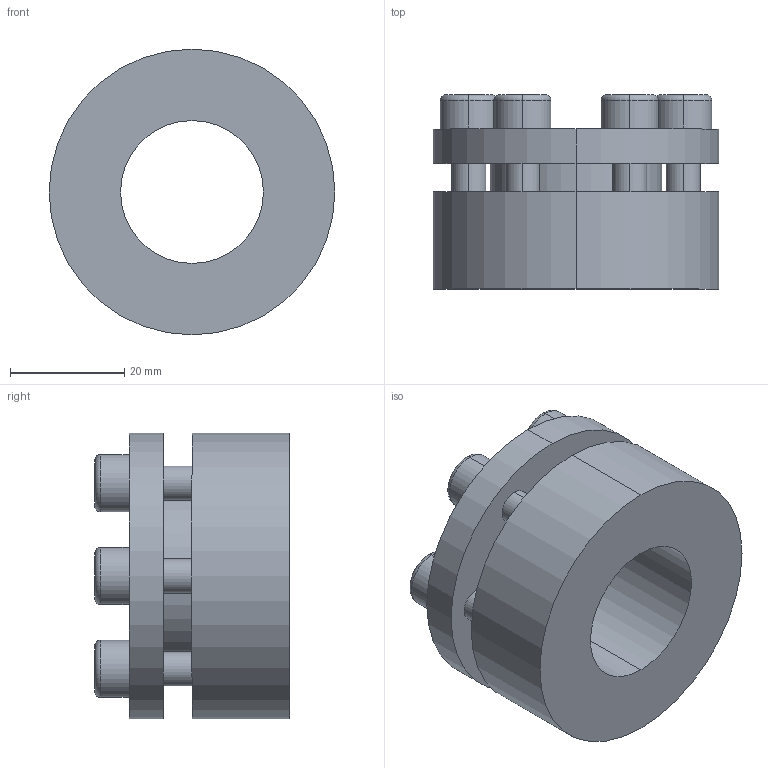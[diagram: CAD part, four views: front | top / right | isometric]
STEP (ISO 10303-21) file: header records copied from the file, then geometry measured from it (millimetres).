
FILE_DESCRIPTION (( 'STEP AP203' ), '1' );
FILE_NAME ('PL-H3 25-50.STEP', '2021-10-23T01:06:35', ( '' ), ( '' ), 'SwSTEP 2.0', 'SolidWorks 2018', '' );
FILE_SCHEMA (( 'CONFIG_CONTROL_DESIGN' ));
Length unit declared in the file: millimetre
Products named in the file (1): PL-H3 25-50
Bounding box: 50 x 34 x 50 mm (x, y, z)
Volume: 38197.5 mm3; surface area: 13327.1 mm2
Topology: 1 solids, 1 shells, 96 faces, 228 edges, 148 vertices
Faces by surface type: plane 52, cylinder 32, torus 12
Entity records: 2889 total; most frequent: DIRECTION 510, CARTESIAN_POINT 473, ORIENTED_EDGE 456, EDGE_CURVE 228, AXIS2_PLACEMENT_3D 185, VERTEX_POINT 148, LINE 140, VECTOR 140
